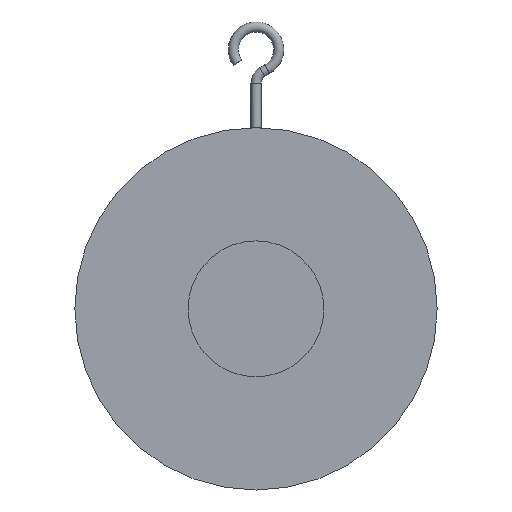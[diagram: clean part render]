
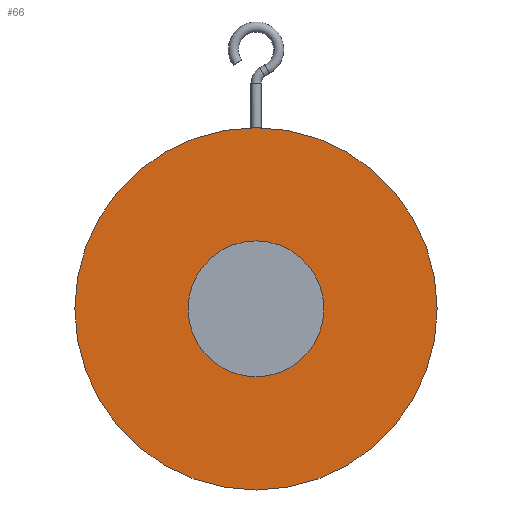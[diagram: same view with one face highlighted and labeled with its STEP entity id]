
A CAD part, front view. The second image highlights one B-rep face of the part: STEP entity #66.
In plain terms, the highlighted planar face has unit normal (0, -1, 0).
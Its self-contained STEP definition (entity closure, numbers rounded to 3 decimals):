
#66=ADVANCED_FACE('',(#203,#205),#207,.T.);
#203=FACE_BOUND('',#204,.T.);
#204=EDGE_LOOP('',(#315));
#205=FACE_BOUND('',#206,.T.);
#206=EDGE_LOOP('',(#316));
#207=PLANE('',#208);
#208=AXIS2_PLACEMENT_3D('',#209,#210,#211);
#209=CARTESIAN_POINT('',(0.,-8.5,0.));
#210=DIRECTION('',(0.,-1.,0.));
#211=DIRECTION('',(0.,0.,1.));
#315=ORIENTED_EDGE('',*,*,#356,.F.);
#316=ORIENTED_EDGE('',*,*,#358,.T.);
#356=EDGE_CURVE('',#383,#383,#384,.T.);
#358=EDGE_CURVE('',#387,#387,#388,.T.);
#383=VERTEX_POINT('',#576);
#384=CIRCLE('',#577,72.);
#387=VERTEX_POINT('',#586);
#388=CIRCLE('',#587,27.);
#576=CARTESIAN_POINT('',(0.,-8.5,72.));
#577=AXIS2_PLACEMENT_3D('',#578,#579,#580);
#578=CARTESIAN_POINT('',(0.,-8.5,0.));
#579=DIRECTION('',(0.,1.,0.));
#580=DIRECTION('',(0.,0.,1.));
#586=CARTESIAN_POINT('',(0.,-8.5,27.));
#587=AXIS2_PLACEMENT_3D('',#588,#589,#590);
#588=CARTESIAN_POINT('',(0.,-8.5,0.));
#589=DIRECTION('',(0.,1.,0.));
#590=DIRECTION('',(0.,0.,1.));
